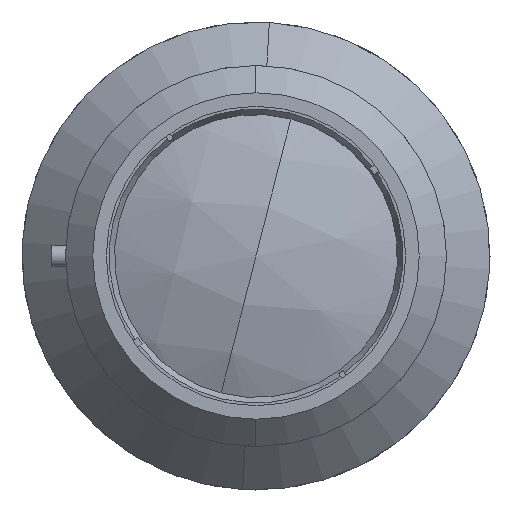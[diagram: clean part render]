
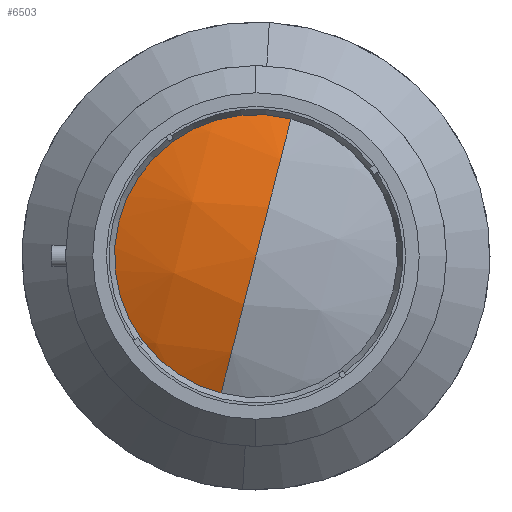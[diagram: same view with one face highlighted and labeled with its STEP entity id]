
A CAD part, left-side view. The second image highlights one B-rep face of the part: STEP entity #6503.
In plain terms, the highlighted spherical face has radius 65.508 mm.
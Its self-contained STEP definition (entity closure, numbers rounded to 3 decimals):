
#255 = DIRECTION ( 'NONE',  ( 0., 0.969, 0.247 ) ) ;
#4646 = AXIS2_PLACEMENT_3D ( 'NONE', #26861, #12461, #29277 ) ;
#5219 = FACE_OUTER_BOUND ( 'NONE', #12088, .T. ) ;
#6410 = DIRECTION ( 'NONE',  ( 0., -0.247, 0.969 ) ) ;
#6503 = ADVANCED_FACE ( 'NONE', ( #5219 ), #29286, .T. ) ;
#6865 = ORIENTED_EDGE ( 'NONE', *, *, #24291, .T. ) ;
#7007 = EDGE_CURVE ( 'NONE', #21460, #25295, #9715, .T. ) ;
#8606 = CARTESIAN_POINT ( 'NONE',  ( 66.546, 0., 0. ) ) ;
#9409 = CARTESIAN_POINT ( 'NONE',  ( 6.861, 6.66, -26.166 ) ) ;
#9715 = CIRCLE ( 'NONE', #19972, 27. ) ;
#10755 = ORIENTED_EDGE ( 'NONE', *, *, #15750, .F. ) ;
#11030 = DIRECTION ( 'NONE',  ( 0., 0.247, -0.969 ) ) ;
#12088 = EDGE_LOOP ( 'NONE', ( #27019, #6865, #10755 ) ) ;
#12461 = DIRECTION ( 'NONE',  ( 0., 0.969, 0.247 ) ) ;
#14646 = DIRECTION ( 'NONE',  ( -1., 0., 0. ) ) ;
#14721 = CARTESIAN_POINT ( 'NONE',  ( 1.038, 0., 0. ) ) ;
#14730 = CARTESIAN_POINT ( 'NONE',  ( 6.861, -6.66, 26.166 ) ) ;
#15574 = VERTEX_POINT ( 'NONE', #14721 ) ;
#15750 = EDGE_CURVE ( 'NONE', #21460, #15574, #26331, .T. ) ;
#19972 = AXIS2_PLACEMENT_3D ( 'NONE', #29042, #14646, #255 ) ;
#20801 = CARTESIAN_POINT ( 'NONE',  ( 66.546, 0., 0. ) ) ;
#21460 = VERTEX_POINT ( 'NONE', #14730 ) ;
#23177 = CIRCLE ( 'NONE', #4646, 65.508 ) ;
#24291 = EDGE_CURVE ( 'NONE', #25295, #15574, #23177, .T. ) ;
#24912 = AXIS2_PLACEMENT_3D ( 'NONE', #8606, #25436, #11030 ) ;
#25295 = VERTEX_POINT ( 'NONE', #9409 ) ;
#25436 = DIRECTION ( 'NONE',  ( 0., -0.969, -0.247 ) ) ;
#26331 = CIRCLE ( 'NONE', #24912, 65.508 ) ;
#26861 = CARTESIAN_POINT ( 'NONE',  ( 66.546, 0., 0. ) ) ;
#27019 = ORIENTED_EDGE ( 'NONE', *, *, #7007, .T. ) ;
#29042 = CARTESIAN_POINT ( 'NONE',  ( 6.861, 0., 0. ) ) ;
#29277 = DIRECTION ( 'NONE',  ( 0., -0.247, 0.969 ) ) ;
#29286 = SPHERICAL_SURFACE ( 'NONE', #30252, 65.508 ) ;
#30252 = AXIS2_PLACEMENT_3D ( 'NONE', #20801, #30294, #6410 ) ;
#30294 = DIRECTION ( 'NONE',  ( 0., 0.969, 0.247 ) ) ;
